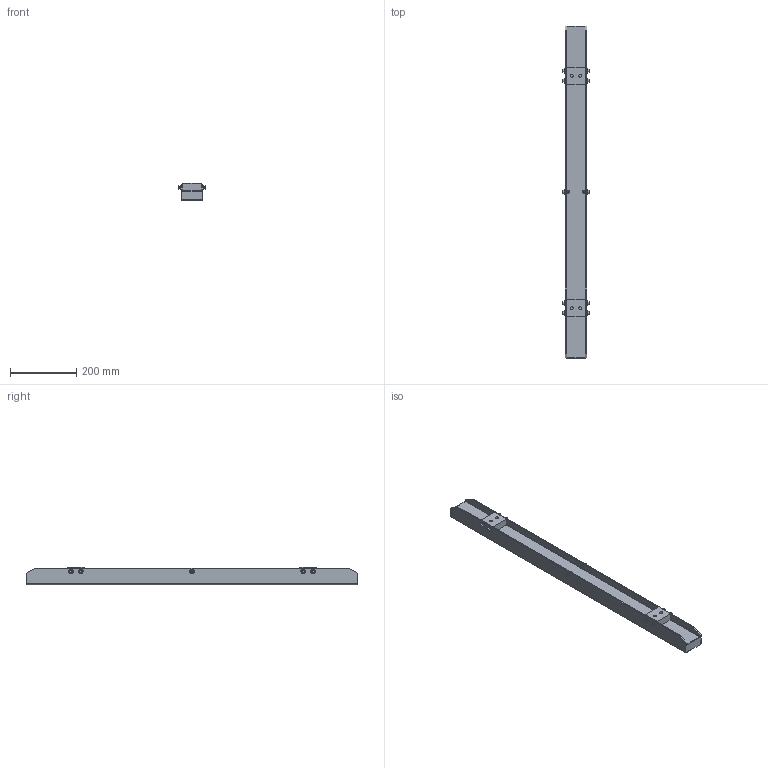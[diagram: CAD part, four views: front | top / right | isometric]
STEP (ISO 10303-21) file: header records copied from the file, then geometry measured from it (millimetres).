
FILE_DESCRIPTION(/* description */ (''),/* implementation_level */ '2;1');
FILE_NAME(/* name */ 'SPR-065Wx050Hx1000L.step',/* time_stamp */ '2022-12-19T15:44:03+09:00',/* author */ (''),/* organization */ (''),/* preprocessor_version */ 'ST-DEVELOPER v19.2',/* originating_system */ 'Autodesk Translation Framework v11.17.0.187',/* authorisation */ '');
FILE_SCHEMA (('AUTOMOTIVE_DESIGN { 1 0 10303 214 3 1 1 }'));
Length unit declared in the file: millimetre
Products named in the file (10): SPR-065Wx050Hx1000L; BODY1; UNUTKZ6; CAP_BOLT_M6(L=16) v1(ミラー) (1); UNUTKZ6 v2(ミラー); BODY2; Bracket; Bracket_1; CAP_BOLT_M6(L=16); CAP_BOLT_M6(L=16) v1(ミラー)
Assembly tree (16 placements, depth 3):
  SPR-065Wx050Hx1000L
    BODY1
      CAP_BOLT_M6(L=16)
      UNUTKZ6
      CAP_BOLT_M6(L=16) v1(ミラー) (1)
      UNUTKZ6 v2(ミラー)
    BODY2
    Bracket
      CAP_BOLT_M6(L=16)  x2
      CAP_BOLT_M6(L=16) v1(ミラー)  x2
    Bracket_1
      CAP_BOLT_M6(L=16)  x2
      CAP_BOLT_M6(L=16) v1(ミラー)  x2
Bounding box: 81.6 x 1000 x 52 mm (x, y, z)
Volume: 645965.1 mm3; surface area: 565756.6 mm2
Topology: 26 solids, 26 shells, 348 faces, 778 edges, 502 vertices
Faces by surface type: plane 214, cylinder 100, cone 32, torus 2
Full cylindrical faces by diameter (mm): 4.917 x2, 5.035 x4, 5.5 x20, 6 x10, 6.5 x10, 8 x2, 8.526 x4, 10 x12, 14 x10
Entity records: 7269 total; most frequent: CARTESIAN_POINT 1285, DIRECTION 1238, ORIENTED_EDGE 1128, EDGE_CURVE 564, AXIS2_PLACEMENT_3D 459, VERTEX_POINT 362, LINE 320, VECTOR 320
